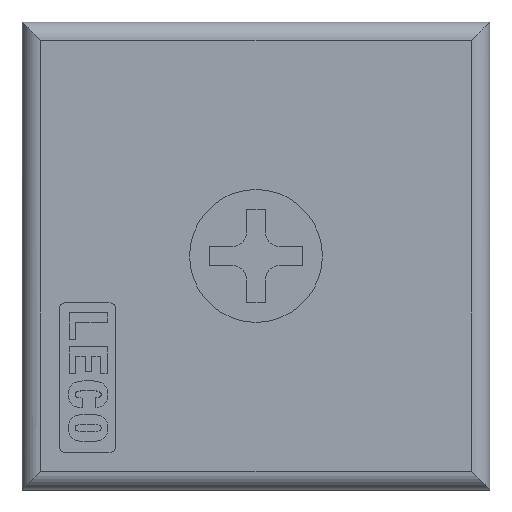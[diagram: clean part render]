
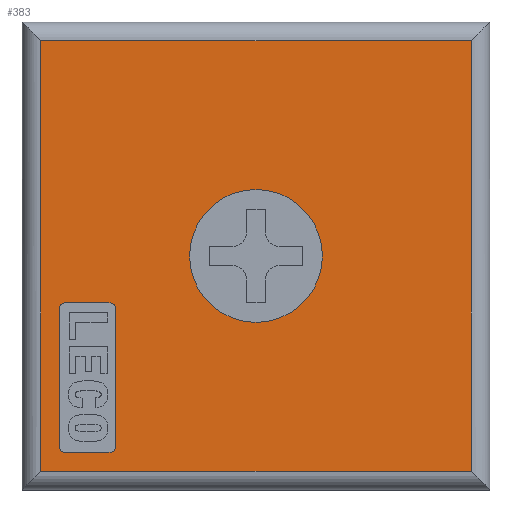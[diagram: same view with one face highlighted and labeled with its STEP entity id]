
A CAD part, top view. The second image highlights one B-rep face of the part: STEP entity #383.
In plain terms, the highlighted planar face has unit normal (0, 0, 1).
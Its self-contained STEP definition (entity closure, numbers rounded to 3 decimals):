
#383=ADVANCED_FACE('',(#779,#780,#781),#782,.F.);
#779=FACE_BOUND('',#1178,.T.);
#780=FACE_BOUND('',#1179,.T.);
#781=FACE_OUTER_BOUND('',#1180,.T.);
#782=PLANE('',#1181);
#1178=EDGE_LOOP('',(#2293));
#1179=EDGE_LOOP('',(#2294,#2295,#2296,#2297,#2298,#2299,#2300,#2301));
#1180=EDGE_LOOP('',(#2302,#2303,#2304,#2305));
#1181=AXIS2_PLACEMENT_3D('',#2306,#2307,#2308);
#2293=ORIENTED_EDGE('',*,*,#2841,.T.);
#2294=ORIENTED_EDGE('',*,*,#2843,.F.);
#2295=ORIENTED_EDGE('',*,*,#2445,.F.);
#2296=ORIENTED_EDGE('',*,*,#2545,.F.);
#2297=ORIENTED_EDGE('',*,*,#2748,.F.);
#2298=ORIENTED_EDGE('',*,*,#2835,.F.);
#2299=ORIENTED_EDGE('',*,*,#2712,.F.);
#2300=ORIENTED_EDGE('',*,*,#2394,.F.);
#2301=ORIENTED_EDGE('',*,*,#2421,.F.);
#2302=ORIENTED_EDGE('',*,*,#2534,.T.);
#2303=ORIENTED_EDGE('',*,*,#2577,.T.);
#2304=ORIENTED_EDGE('',*,*,#2572,.F.);
#2305=ORIENTED_EDGE('',*,*,#2673,.F.);
#2306=CARTESIAN_POINT('',(0.,1.,3.));
#2307=DIRECTION('',(0.0,0.0,-1.0));
#2308=DIRECTION('',(-1.0,0.0,0.0));
#2394=EDGE_CURVE('',#2857,#2858,#2859,.T.);
#2421=EDGE_CURVE('',#2906,#2857,#2907,.T.);
#2445=EDGE_CURVE('',#2948,#2949,#2950,.T.);
#2534=EDGE_CURVE('',#3107,#3105,#3108,.T.);
#2545=EDGE_CURVE('',#3123,#2948,#3124,.T.);
#2572=EDGE_CURVE('',#3168,#3169,#3170,.T.);
#2577=EDGE_CURVE('',#3105,#3169,#3175,.T.);
#2673=EDGE_CURVE('',#3107,#3168,#3317,.T.);
#2712=EDGE_CURVE('',#2858,#3374,#3375,.T.);
#2748=EDGE_CURVE('',#3421,#3123,#3422,.T.);
#2835=EDGE_CURVE('',#3374,#3421,#3519,.T.);
#2841=EDGE_CURVE('',#3525,#3525,#3526,.T.);
#2843=EDGE_CURVE('',#2949,#2906,#3528,.T.);
#2857=VERTEX_POINT('',#3542);
#2858=VERTEX_POINT('',#3543);
#2859=LINE('',#3544,#3545);
#2906=VERTEX_POINT('',#3609);
#2907=CIRCLE('',#3610,0.3);
#2948=VERTEX_POINT('',#3666);
#2949=VERTEX_POINT('',#3667);
#2950=CIRCLE('',#3668,0.3);
#3105=VERTEX_POINT('',#3873);
#3107=VERTEX_POINT('',#3875);
#3108=LINE('',#3876,#3877);
#3123=VERTEX_POINT('',#3897);
#3124=LINE('',#3898,#3899);
#3168=VERTEX_POINT('',#3950);
#3169=VERTEX_POINT('',#3951);
#3170=LINE('',#3952,#3953);
#3175=LINE('',#3959,#3960);
#3317=LINE('',#4167,#4168);
#3374=VERTEX_POINT('',#4261);
#3375=CIRCLE('',#4262,0.3);
#3421=VERTEX_POINT('',#4325);
#3422=CIRCLE('',#4326,0.3);
#3519=LINE('',#4469,#4470);
#3525=VERTEX_POINT('',#4485);
#3526=CIRCLE('',#4486,3.55);
#3528=LINE('',#4488,#4489);
#3542=CARTESIAN_POINT('',(2.,9.7,3.));
#3543=CARTESIAN_POINT('',(2.,2.3,3.));
#3544=CARTESIAN_POINT('',(2.,9.7,3.));
#3545=VECTOR('',#4508,1.0);
#3609=CARTESIAN_POINT('',(2.3,10.,3.));
#3610=AXIS2_PLACEMENT_3D('',#4538,#4539,#4540);
#3666=CARTESIAN_POINT('',(5.,9.7,3.));
#3667=CARTESIAN_POINT('',(4.7,10.,3.));
#3668=AXIS2_PLACEMENT_3D('',#4565,#4566,#4567);
#3873=CARTESIAN_POINT('',(24.,1.,3.));
#3875=CARTESIAN_POINT('',(1.,1.,3.));
#3876=CARTESIAN_POINT('',(0.,1.,3.));
#3877=VECTOR('',#4708,1.0);
#3897=CARTESIAN_POINT('',(5.,2.3,3.));
#3898=CARTESIAN_POINT('',(5.,2.3,3.));
#3899=VECTOR('',#4720,1.0);
#3950=CARTESIAN_POINT('',(1.,24.0,3.));
#3951=CARTESIAN_POINT('',(24.,24.0,3.));
#3952=CARTESIAN_POINT('',(0.,24.0,3.));
#3953=VECTOR('',#4773,1.0);
#3959=CARTESIAN_POINT('',(24.,0.,3.));
#3960=VECTOR('',#4781,1.0);
#4167=CARTESIAN_POINT('',(1.,0.,3.));
#4168=VECTOR('',#4884,1.0);
#4261=CARTESIAN_POINT('',(2.3,2.,3.));
#4262=AXIS2_PLACEMENT_3D('',#4925,#4926,#4927);
#4325=CARTESIAN_POINT('',(4.7,2.,3.));
#4326=AXIS2_PLACEMENT_3D('',#4963,#4964,#4965);
#4469=CARTESIAN_POINT('',(2.3,2.,3.));
#4470=VECTOR('',#5034,1.0);
#4485=CARTESIAN_POINT('',(8.95,12.5,3.));
#4486=AXIS2_PLACEMENT_3D('',#5035,#5036,#5037);
#4488=CARTESIAN_POINT('',(4.7,10.,3.));
#4489=VECTOR('',#5038,1.0);
#4508=DIRECTION('',(0.0,-1.0,0.0));
#4538=CARTESIAN_POINT('',(2.3,9.7,3.));
#4539=DIRECTION('',(0.0,0.0,1.0));
#4540=DIRECTION('',(0.0,-1.0,0.0));
#4565=CARTESIAN_POINT('',(4.7,9.7,3.));
#4566=DIRECTION('',(0.0,0.0,1.0));
#4567=DIRECTION('',(0.0,-1.0,0.0));
#4708=DIRECTION('',(1.0,0.0,0.0));
#4720=DIRECTION('',(0.0,1.0,0.0));
#4773=DIRECTION('',(1.0,0.0,0.0));
#4781=DIRECTION('',(0.0,1.0,0.0));
#4884=DIRECTION('',(0.0,1.0,0.0));
#4925=CARTESIAN_POINT('',(2.3,2.3,3.));
#4926=DIRECTION('',(0.0,0.0,1.0));
#4927=DIRECTION('',(0.0,-1.0,0.0));
#4963=CARTESIAN_POINT('',(4.7,2.3,3.));
#4964=DIRECTION('',(0.0,0.0,1.0));
#4965=DIRECTION('',(0.0,-1.0,0.0));
#5034=DIRECTION('',(1.0,0.,0.0));
#5035=CARTESIAN_POINT('',(12.5,12.5,3.));
#5036=DIRECTION('',(0.0,0.0,-1.0));
#5037=DIRECTION('',(-1.0,0.0,0.0));
#5038=DIRECTION('',(-1.0,0.0,0.0));
